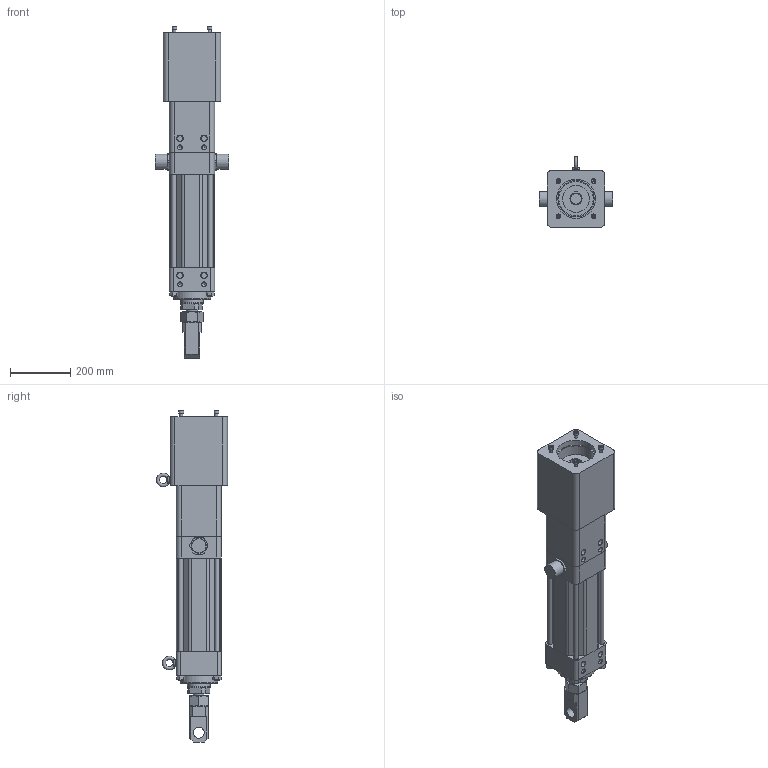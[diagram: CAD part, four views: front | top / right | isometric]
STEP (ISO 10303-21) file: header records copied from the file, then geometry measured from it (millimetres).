
FILE_DESCRIPTION (( 'STEP AP203' ), '1' );
FILE_NAME ('RSX15_RN12_SM100.000_RS-491411-1.step', '2025-06-24T22:44:58', ( '' ), ( '' ), 'SwSTEP 2.0', 'SolidWorks 2024', '' );
FILE_SCHEMA (( 'CONFIG_CONTROL_DESIGN' ));
Length unit declared in the file: inch
Products named in the file (4): 21719013_RSX15_RN12_SM100.000_RS-491411-1; tempJoin1_21719005_RSX15_RN12_SM100.000_RS-491411-1; Base_RSX15_RN12_SM100.000_RS-491411-1; RSX15_RN12_SM100.000_RS-491411-1
Assembly tree (3 placements, depth 2):
  RSX15_RN12_SM100.000_RS-491411-1
    tempJoin1_21719005_RSX15_RN12_SM100.000_RS-491411-1
    21719013_RSX15_RN12_SM100.000_RS-491411-1
    Base_RSX15_RN12_SM100.000_RS-491411-1
Bounding box: 245 x 235.96 x 1102.28 mm (x, y, z)
Volume: 18567847 mm3; surface area: 1328758.2 mm2
Topology: 3 solids, 20 shells, 817 faces, 1832 edges, 1155 vertices
Faces by surface type: plane 482, cylinder 206, cone 105, bspline 12, torus 11, sphere 1
Full cylindrical faces by diameter (mm): 3.175 x3, 4.762 x1, 6.528 x4, 7.9 x1, 8 x1, 8.02 x2, 8.499 x4, 8.5 x6, 10 x4, 10.025 x4, 10.16 x6, 12 x4, 13.835 x2, 14 x4, 15.875 x13, 16 x4, 16.5 x6, 20.013 x4, 21 x4, 22.2 x4, 25 x2, 25.4 x2, 25.527 x4, 31.75 x1, 36 x1, 36.513 x2, 36.992 x1, 37.5 x1, 39.7 x1, 40 x1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
Entity records: 23199 total; most frequent: CARTESIAN_POINT 5707, DIRECTION 3685, ORIENTED_EDGE 3078, EDGE_CURVE 1539, AXIS2_PLACEMENT_3D 1429, EDGE_LOOP 1132, VERTEX_POINT 1063, FACE_OUTER_BOUND 943
